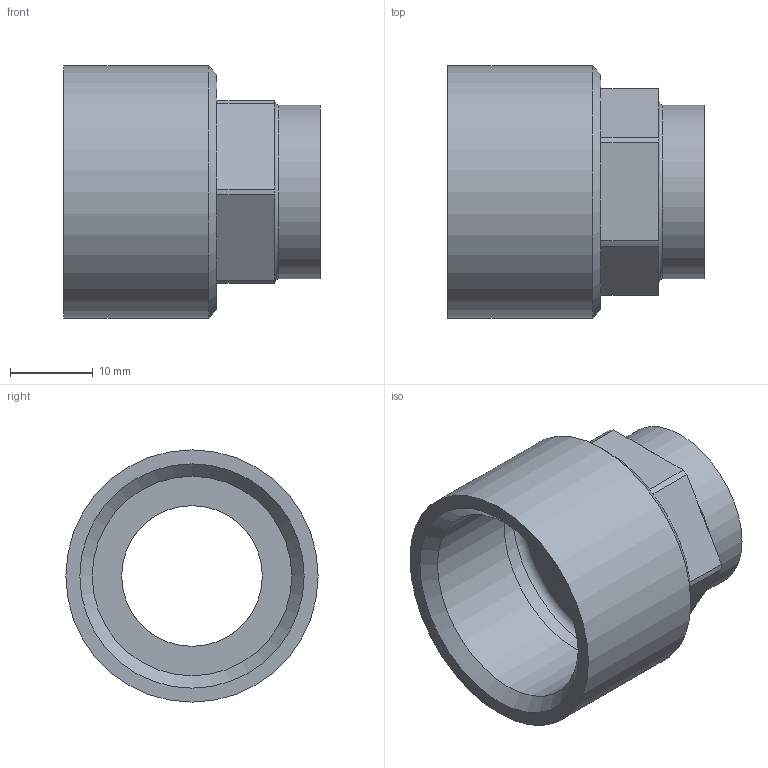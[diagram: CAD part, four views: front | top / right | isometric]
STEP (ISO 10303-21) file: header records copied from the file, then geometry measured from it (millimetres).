
FILE_DESCRIPTION((''),'2;1');
FILE_NAME('\\Lg50001\groups\SANHA Legnica\Engineering\Public\RYSUNKI\SANHA POLSKA\4270G\STEP\14270_18-34(3).stp','2009-06-12T10:54:17',('pajchrowski'),(''),'Autodesk Inventor 2009','Autodesk Inventor 2009','');
FILE_SCHEMA(('AUTOMOTIVE_DESIGN { 1 0 10303 214 1 1 1 1 }'));
Length unit declared in the file: millimetre
Products named in the file (1): 14270_18-34(3)
Bounding box: 31 x 30.5 x 30.5 mm (x, y, z)
Volume: 6751.2 mm3; surface area: 5735.1 mm2
Topology: 1 solids, 1 shells, 34 faces, 76 edges, 47 vertices
Faces by surface type: plane 17, cylinder 12, cone 3, torus 1, bspline 1
Full cylindrical faces by diameter (mm): 17 x1, 18 x1, 21 x1, 24.117 x1, 26.441 x1, 30.5 x1
Entity records: 942 total; most frequent: CARTESIAN_POINT 187, DIRECTION 164, ORIENTED_EDGE 126, AXIS2_PLACEMENT_3D 67, EDGE_CURVE 63, EDGE_LOOP 50, VERTEX_POINT 45, FACE_OUTER_BOUND 34
